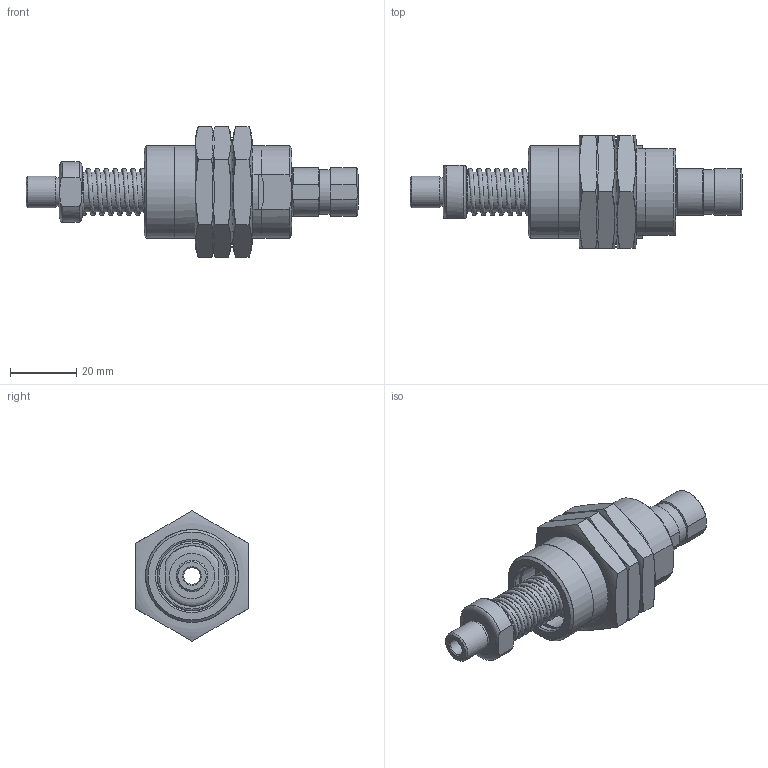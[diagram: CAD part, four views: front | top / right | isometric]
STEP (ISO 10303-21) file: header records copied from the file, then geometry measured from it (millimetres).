
FILE_DESCRIPTION( ( 'Unknown' ), '1' );
FILE_NAME( 'C:/Documents and Settings/Owner/官帕 拳搁/LEVEL SPRING HOMEPAGE/L18 Series/LBX1820T/LBX1820T.stp', 'Unknown', ( 'Unknown' ), ( 'Unknown' ), 'PSStep 10.0', 'Unknown', ' ' );
FILE_SCHEMA( ( 'AUTOMOTIVE_DESIGN { 1 0 10303 214 1 1 1 1 }' ) );
Length unit declared in the file: millimetre
Products named in the file (8): Assem1; SHA; NIPPLE; SLIDE BUSH; COVER; NUT; LBX UPPER; spring
Bounding box: 100 x 34 x 39.26 mm (x, y, z)
Surface area: 37990.3 mm2 (no closed solid volume)
Topology: 0 solids, 201 shells, 201 faces, 723 edges, 618 vertices
Faces by surface type: plane 80, cylinder 57, cone 34, torus 20, revolution 8, bspline 2
Full cylindrical faces by diameter (mm): 5 x4, 8.5 x4, 8.8 x4, 9.5 x2, 9.8 x8, 12 x2, 12.2 x6, 13.5 x2, 20.9 x2, 21 x4, 23 x2, 28 x5
Entity records: 6156 total; most frequent: CARTESIAN_POINT 2784, DIRECTION 544, ORIENTED_EDGE 276, EDGE_CURVE 276, VERTEX_POINT 276, AXIS2_PLACEMENT_3D 244, FACE_BOUND 166, EDGE_LOOP 166
